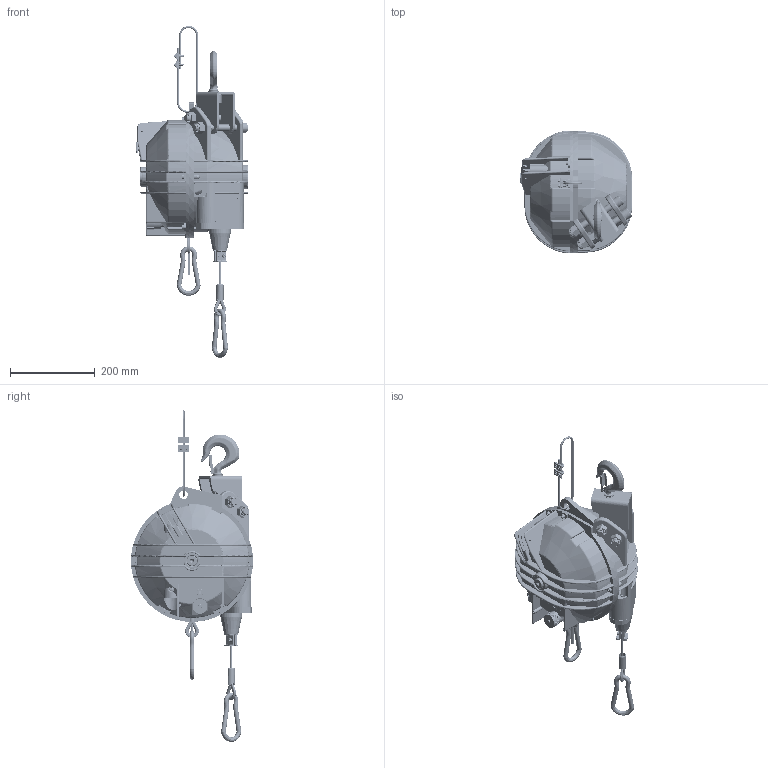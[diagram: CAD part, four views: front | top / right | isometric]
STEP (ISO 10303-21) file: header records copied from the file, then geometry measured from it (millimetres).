
FILE_DESCRIPTION( ( 'Unknown' ), '1' );
FILE_NAME( 'P:/Bilanciatori Figurini 3D e 2D/9411-12-13-14-34-35-36-41-42-43-44.stp', 'Unknown', ( 'Unknown' ), ( 'Unknown' ), 'XStep 1.0', 'Unknown', ' ' );
FILE_SCHEMA( ( 'automotive_design' ) );
Length unit declared in the file: millimetre
Products named in the file (43): Assem1; Assem2; Assem3; Assem4; Assem5; Assem6; 31285-01; 31285-03; 31285-05; 31285-02; 31119; 20589; 33020; vite tcei m5x12 uni 5932; 21183; 20331; 39243; 31081; 10478_PART1; 10478_PART2; 10478_PART3; 10478_PART4; 49076; 49078; 31080; 38582; leva gancio9405; 10476; 31372; 31162; 31169; 10572; 32155; 31296; 31053; V-tcei_M16x_130; Dado Esagonale Basso_M16; V-Tbei_M3x_16; VITE TS_CALOTTA M5 X 12 UNI 7689 Z_B; SEEGER UNI7435-D25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
Bounding box: 265.3 x 289.78 x 783.66 mm (x, y, z)
Volume: 5928928.5 mm3; surface area: 1909081.4 mm2
Topology: 141 solids, 143 shells, 5591 faces, 14643 edges, 9267 vertices
Faces by surface type: plane 2310, cylinder 2169, torus 465, bspline 383, cone 216, sphere 48
Full cylindrical faces by diameter (mm): 2 x4, 3 x16, 4 x2, 4.026 x4, 4.134 x6, 4.5 x4, 4.762 x6, 4.8 x9, 4.917 x37, 5 x47, 5.5 x2, 6 x16, 6.35 x12, 6.5 x7, 6.501 x2, 6.647 x4, 8 x8, 8.5 x7, 9 x6, 9.2 x5, 9.5 x4, 10 x18, 11 x12, 11.5 x3, 13 x2, 13.5 x2, 13.8 x4, 13.835 x4, 14 x4, 14.9 x2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
Entity records: 92609 total; most frequent: CARTESIAN_POINT 32732, DIRECTION 12092, ORIENTED_EDGE 11762, EDGE_CURVE 5881, AXIS2_PLACEMENT_3D 4818, VERTEX_POINT 3853, EDGE_LOOP 2751, FACE_OUTER_BOUND 2549
